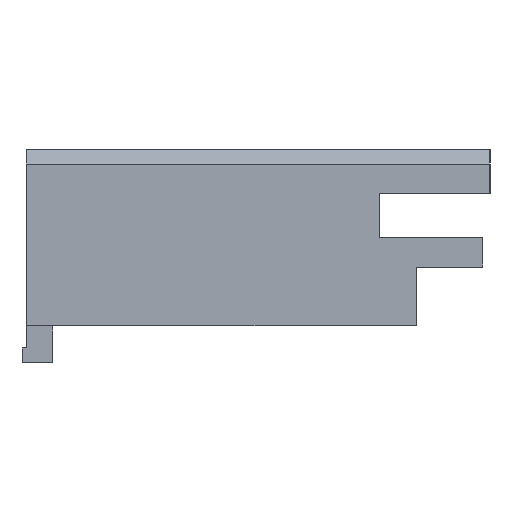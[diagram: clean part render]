
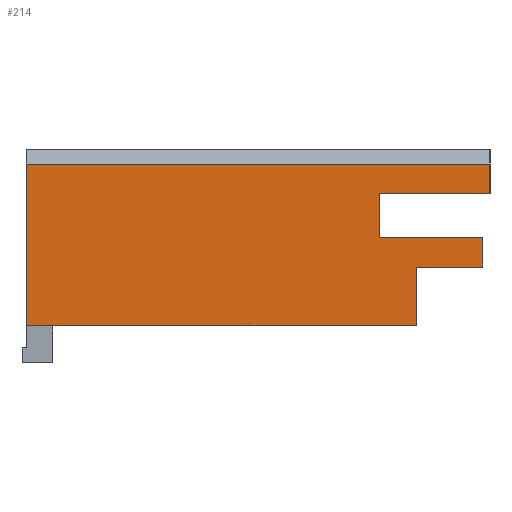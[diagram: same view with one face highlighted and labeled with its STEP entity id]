
A CAD part, left-side view. The second image highlights one B-rep face of the part: STEP entity #214.
In plain terms, the highlighted planar face has unit normal (-1, 0, 0).
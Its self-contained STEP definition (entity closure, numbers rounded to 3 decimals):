
#214=ADVANCED_FACE('',(#470),#343,.T.);
#343=PLANE('',#2899);
#470=FACE_OUTER_BOUND('',#600,.T.);
#600=EDGE_LOOP('',(#1306,#1307,#1308,#1309,#1310,#1311,#1312,#1313,#1314,
#1315));
#1306=ORIENTED_EDGE('',*,*,#1941,.F.);
#1307=ORIENTED_EDGE('',*,*,#1942,.F.);
#1308=ORIENTED_EDGE('',*,*,#1947,.F.);
#1309=ORIENTED_EDGE('',*,*,#1956,.F.);
#1310=ORIENTED_EDGE('',*,*,#2005,.T.);
#1311=ORIENTED_EDGE('',*,*,#2006,.T.);
#1312=ORIENTED_EDGE('',*,*,#2007,.F.);
#1313=ORIENTED_EDGE('',*,*,#1968,.T.);
#1314=ORIENTED_EDGE('',*,*,#1953,.F.);
#1315=ORIENTED_EDGE('',*,*,#1999,.F.);
#1586=VERTEX_POINT('',#4172);
#1589=VERTEX_POINT('',#4178);
#1590=VERTEX_POINT('',#4182);
#1593=VERTEX_POINT('',#4190);
#1594=VERTEX_POINT('',#4194);
#1599=VERTEX_POINT('',#4203);
#1601=VERTEX_POINT('',#4209);
#1608=VERTEX_POINT('',#4234);
#1626=VERTEX_POINT('',#4305);
#1627=VERTEX_POINT('',#4307);
#1941=EDGE_CURVE('',#1589,#1586,#2317,.T.);
#1942=EDGE_CURVE('',#1590,#1589,#2318,.T.);
#1947=EDGE_CURVE('',#1593,#1590,#2323,.T.);
#1953=EDGE_CURVE('',#1599,#1594,#2329,.T.);
#1956=EDGE_CURVE('',#1601,#1593,#2332,.T.);
#1968=EDGE_CURVE('',#1608,#1594,#2344,.T.);
#1999=EDGE_CURVE('',#1586,#1599,#2375,.T.);
#2005=EDGE_CURVE('',#1601,#1626,#2381,.T.);
#2006=EDGE_CURVE('',#1626,#1627,#2382,.T.);
#2007=EDGE_CURVE('',#1608,#1627,#2383,.T.);
#2317=LINE('',#4179,#2689);
#2318=LINE('',#4181,#2690);
#2323=LINE('',#4191,#2695);
#2329=LINE('',#4204,#2701);
#2332=LINE('',#4210,#2704);
#2344=LINE('',#4233,#2716);
#2375=LINE('',#4293,#2747);
#2381=LINE('',#4304,#2753);
#2382=LINE('',#4306,#2754);
#2383=LINE('',#4308,#2755);
#2689=VECTOR('',#3415,1.);
#2690=VECTOR('',#3418,1.);
#2695=VECTOR('',#3425,1.);
#2701=VECTOR('',#3433,1.);
#2704=VECTOR('',#3438,1.);
#2716=VECTOR('',#3460,1.);
#2747=VECTOR('',#3517,1.);
#2753=VECTOR('',#3529,1.);
#2754=VECTOR('',#3530,1.);
#2755=VECTOR('',#3531,1.);
#2899=AXIS2_PLACEMENT_3D('',#4309,#3532,#3533);
#3415=DIRECTION('',(0.,0.,-1.));
#3418=DIRECTION('',(0.,-1.,0.));
#3425=DIRECTION('',(0.,0.,-1.));
#3433=DIRECTION('',(0.,0.,-1.));
#3438=DIRECTION('',(0.,1.,0.));
#3460=DIRECTION('',(0.,-1.,0.));
#3517=DIRECTION('',(0.,1.,0.));
#3529=DIRECTION('',(0.,0.,1.));
#3530=DIRECTION('',(0.,1.,0.));
#3531=DIRECTION('',(0.,0.,1.));
#3532=DIRECTION('',(-1.,0.,0.));
#3533=DIRECTION('',(0.,0.,1.));
#4172=CARTESIAN_POINT('',(-17.038,-12.75,3.855));
#4178=CARTESIAN_POINT('',(-17.038,-12.75,5.855));
#4179=CARTESIAN_POINT('',(-17.038,-12.75,-0.145));
#4181=CARTESIAN_POINT('',(-17.038,2.5,5.855));
#4182=CARTESIAN_POINT('',(-17.038,-5.75,5.855));
#4190=CARTESIAN_POINT('',(-17.038,-5.75,8.855));
#4191=CARTESIAN_POINT('',(-17.038,-5.75,-0.145));
#4194=CARTESIAN_POINT('',(-17.038,-8.25,-0.145));
#4203=CARTESIAN_POINT('',(-17.038,-8.25,3.855));
#4204=CARTESIAN_POINT('',(-17.038,-8.25,-0.145));
#4209=CARTESIAN_POINT('',(-17.038,-13.25,8.855));
#4210=CARTESIAN_POINT('',(-17.038,2.5,8.855));
#4233=CARTESIAN_POINT('',(-17.038,2.5,-0.145));
#4234=CARTESIAN_POINT('',(-17.038,18.25,-0.145));
#4293=CARTESIAN_POINT('',(-17.038,2.5,3.855));
#4304=CARTESIAN_POINT('',(-17.038,-13.25,-0.145));
#4305=CARTESIAN_POINT('',(-17.038,-13.25,10.855));
#4306=CARTESIAN_POINT('',(-17.038,2.5,10.855));
#4307=CARTESIAN_POINT('',(-17.038,18.25,10.855));
#4308=CARTESIAN_POINT('',(-17.038,18.25,-0.145));
#4309=CARTESIAN_POINT('',(-17.038,2.5,-0.145));
